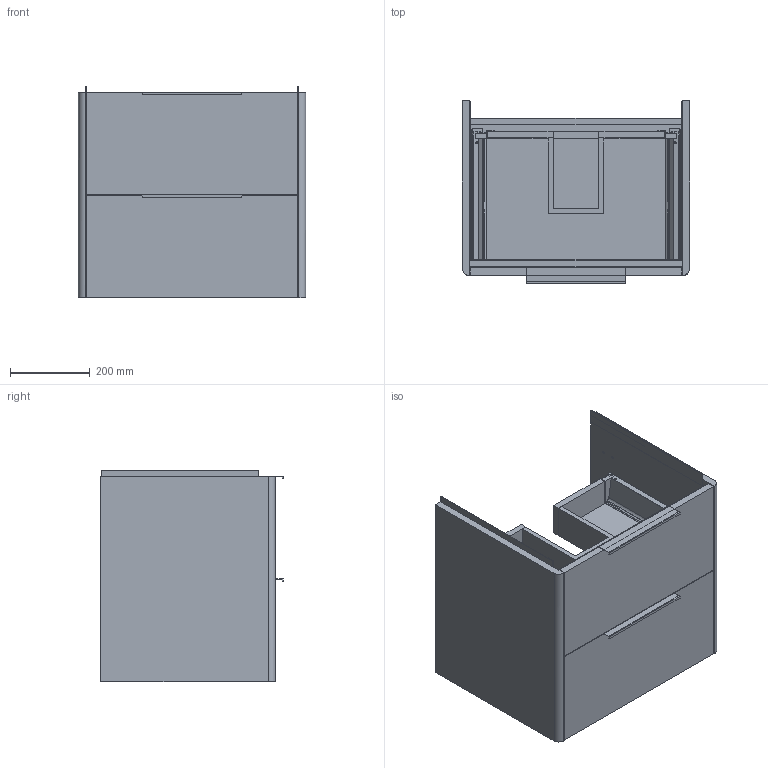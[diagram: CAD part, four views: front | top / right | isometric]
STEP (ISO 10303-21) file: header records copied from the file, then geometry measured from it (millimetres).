
FILE_DESCRIPTION(/* description */ (''),/* implementation_level */ '2;1');
FILE_NAME(/* name */ '3D6647~1',/* time_stamp */ '2018-05-07T13:25:26+02:00',/* author */ (''),/* organization */ (''),/* preprocessor_version */ 'ST-DEVELOPER v15',/* originating_system */ '',/* authorisation */ '');
FILE_SCHEMA (('AUTOMOTIVE_DESIGN'));
Length unit declared in the file: millimetre
Products named in the file (23): Document; 350-84_MIR1; 350-84_1_MIR1; 350-84_2_MIR1; 350-84_3_MIR1; 350-84; 350-84_1; 350-84_2; 350-84_3; maniglia inferiore; Maniglia superiore; Frontale cassetto inferiore; Retro_cassetto inferiore; Fascia rialzo; Retro cassetto superiore; Fondo cassetto inferiore; Fondo cassetto superiore; Fondo mobile; Fianco dx; Fianco sx; Catena inferiore; Frontale cassetto superiore; Catena_superiore
Assembly tree (24 placements, depth 3):
  Document
    350-84_MIR1  x2
      350-84_1_MIR1
      350-84_2_MIR1
      350-84_3_MIR1
    350-84  x2
      350-84_1
      350-84_2
      350-84_3
    maniglia inferiore
    Maniglia superiore
    Frontale cassetto inferiore
    Retro_cassetto inferiore
    Fascia rialzo
    Retro cassetto superiore
    Fondo cassetto inferiore
    Fondo cassetto superiore
    Fondo mobile
    Fianco dx
    Fianco sx
    Catena inferiore
    Frontale cassetto superiore
    Catena_superiore
Bounding box: 570 x 458.1 x 531 mm (x, y, z)
Volume: 26584086.1 mm3; surface area: 3941080.1 mm2
Topology: 28 solids, 28 shells, 1055 faces, 3161 edges, 2198 vertices
Faces by surface type: plane 776, bspline 279
Entity records: 19884 total; most frequent: CARTESIAN_POINT 7915, ORIENTED_EDGE 3490, EDGE_CURVE 1745, B_SPLINE_CURVE_WITH_KNOTS 1287, VERTEX_POINT 1214, EDGE_LOOP 695, ADVANCED_FACE 597, FACE_OUTER_BOUND 597
